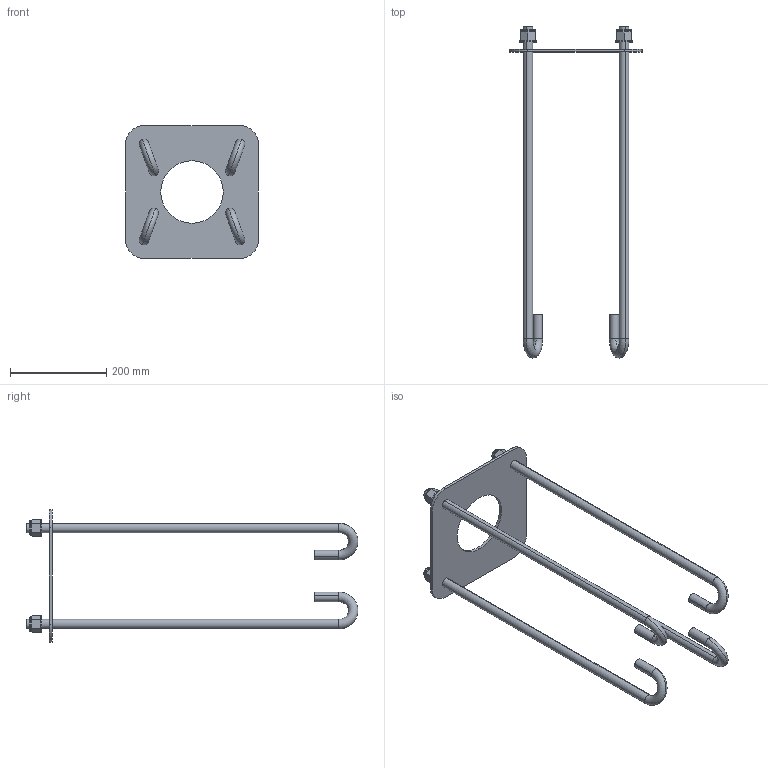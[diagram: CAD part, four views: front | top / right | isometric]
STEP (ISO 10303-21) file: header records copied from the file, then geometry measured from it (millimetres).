
FILE_DESCRIPTION (( 'STEP AP203' ), '1' );
FILE_NAME ('7663.STEP', '2020-07-09T12:01:24', ( '' ), ( '' ), 'SwSTEP 2.0', 'SolidWorks 2019', '' );
FILE_SCHEMA (( 'CONFIG_CONTROL_DESIGN' ));
Length unit declared in the file: millimetre
Products named in the file (6): S｣UP 120_76_Podstawa 200_Blacha_rs_Szpilki 200; M20 SAM_rs; 7663; S｣UP 120_76_Podstawa 200_Kotwa_rs; POD 21_rs; S｣UP 120_76_SZPILKI  KOM_rs
Assembly tree (14 placements, depth 3):
  7663
    S｣UP 120_76_SZPILKI  KOM_rs
      S｣UP 120_76_Podstawa 200_Blacha_rs_Szpilki 200
      S｣UP 120_76_Podstawa 200_Kotwa_rs  x4
      POD 21_rs  x4
      M20 SAM_rs  x4
Bounding box: 276 x 690 x 276 mm (x, y, z)
Volume: 1417523.4 mm3; surface area: 359241 mm2
Topology: 13 solids, 13 shells, 188 faces, 414 edges, 252 vertices
Faces by surface type: cylinder 62, cone 56, plane 54, torus 16
Entity records: 2834 total; most frequent: CARTESIAN_POINT 466, DIRECTION 354, ORIENTED_EDGE 288, AXIS2_PLACEMENT_3D 154, EDGE_CURVE 144, VERTEX_POINT 90, EDGE_LOOP 76, CIRCLE 74
